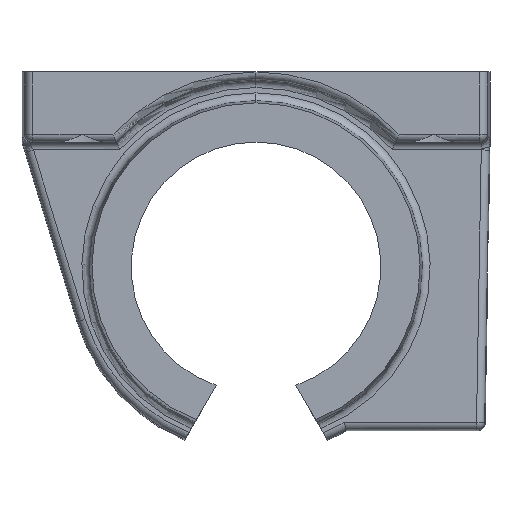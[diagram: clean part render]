
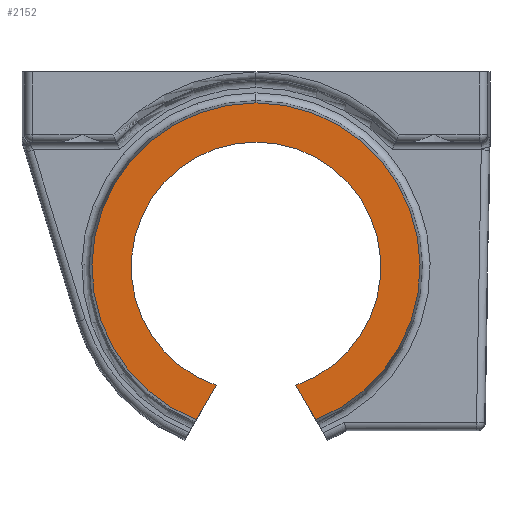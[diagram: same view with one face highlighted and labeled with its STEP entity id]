
A CAD part, front view. The second image highlights one B-rep face of the part: STEP entity #2152.
In plain terms, the highlighted planar face has unit normal (0, -1, 0).
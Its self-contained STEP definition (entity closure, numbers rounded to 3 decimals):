
#162 = ORIENTED_EDGE ( 'NONE', *, *, #2367, .F. ) ;
#289 = VECTOR ( 'NONE', #3725, 1000. ) ;
#396 = DIRECTION ( 'NONE',  ( 0., 1., 0. ) ) ;
#563 = CIRCLE ( 'NONE', #3665, 16. ) ;
#574 = CARTESIAN_POINT ( 'NONE',  ( 0., -14., -22. ) ) ;
#661 = EDGE_CURVE ( 'NONE', #2525, #3799, #4090, .T. ) ;
#722 = VERTEX_POINT ( 'NONE', #3090 ) ;
#758 = CARTESIAN_POINT ( 'NONE',  ( -2.742, -14., -23.583 ) ) ;
#770 = DIRECTION ( 'NONE',  ( 0., 0., -1. ) ) ;
#1057 = CIRCLE ( 'NONE', #2391, 21.028 ) ;
#1135 = DIRECTION ( 'NONE',  ( 0., -1., 0. ) ) ;
#1137 = CARTESIAN_POINT ( 'NONE',  ( 0., -14., -22. ) ) ;
#1179 = CARTESIAN_POINT ( 'NONE',  ( 0., -14., -22. ) ) ;
#1283 = VECTOR ( 'NONE', #3160, 1000. ) ;
#1444 = LINE ( 'NONE', #4073, #289 ) ;
#1560 = AXIS2_PLACEMENT_3D ( 'NONE', #1179, #1135, #770 ) ;
#1664 = EDGE_LOOP ( 'NONE', ( #162, #3961, #2474, #3352, #3644, #1739 ) ) ;
#1739 = ORIENTED_EDGE ( 'NONE', *, *, #661, .T. ) ;
#1747 = CARTESIAN_POINT ( 'NONE',  ( -7.652, -14., -41.586 ) ) ;
#1776 = LINE ( 'NONE', #758, #1283 ) ;
#1874 = DIRECTION ( 'NONE',  ( 0., 0., -1. ) ) ;
#1956 = DIRECTION ( 'NONE',  ( 0., 0., -1. ) ) ;
#2148 = VERTEX_POINT ( 'NONE', #2207 ) ;
#2152 = ADVANCED_FACE ( 'NONE', ( #2861 ), #4201, .T. ) ;
#2207 = CARTESIAN_POINT ( 'NONE',  ( 7.652, -14., -41.586 ) ) ;
#2367 = EDGE_CURVE ( 'NONE', #2148, #3799, #1776, .T. ) ;
#2390 = CARTESIAN_POINT ( 'NONE',  ( 0., -14., -22. ) ) ;
#2391 = AXIS2_PLACEMENT_3D ( 'NONE', #3045, #3655, #4355 ) ;
#2462 = AXIS2_PLACEMENT_3D ( 'NONE', #2390, #396, #2775 ) ;
#2464 = AXIS2_PLACEMENT_3D ( 'NONE', #574, #3933, #1956 ) ;
#2474 = ORIENTED_EDGE ( 'NONE', *, *, #4227, .F. ) ;
#2525 = VERTEX_POINT ( 'NONE', #3211 ) ;
#2526 = CARTESIAN_POINT ( 'NONE',  ( -5.1, -14., -37.165 ) ) ;
#2775 = DIRECTION ( 'NONE',  ( 0., 0., -1. ) ) ;
#2809 = VERTEX_POINT ( 'NONE', #1747 ) ;
#2861 = FACE_OUTER_BOUND ( 'NONE', #1664, .T. ) ;
#3045 = CARTESIAN_POINT ( 'NONE',  ( 0., -14., -22. ) ) ;
#3090 = CARTESIAN_POINT ( 'NONE',  ( 0., -14., -0.972 ) ) ;
#3106 = EDGE_CURVE ( 'NONE', #722, #2148, #4154, .T. ) ;
#3157 = EDGE_CURVE ( 'NONE', #3365, #2809, #1444, .T. ) ;
#3160 = DIRECTION ( 'NONE',  ( -0.5, 0., 0.866 ) ) ;
#3211 = CARTESIAN_POINT ( 'NONE',  ( 0., -14., -6. ) ) ;
#3311 = CARTESIAN_POINT ( 'NONE',  ( 5.1, -14., -37.165 ) ) ;
#3352 = ORIENTED_EDGE ( 'NONE', *, *, #3157, .F. ) ;
#3365 = VERTEX_POINT ( 'NONE', #2526 ) ;
#3378 = EDGE_CURVE ( 'NONE', #3365, #2525, #563, .T. ) ;
#3644 = ORIENTED_EDGE ( 'NONE', *, *, #3378, .T. ) ;
#3655 = DIRECTION ( 'NONE',  ( 0., 1., 0. ) ) ;
#3665 = AXIS2_PLACEMENT_3D ( 'NONE', #1137, #3857, #1874 ) ;
#3725 = DIRECTION ( 'NONE',  ( -0.5, 0., -0.866 ) ) ;
#3799 = VERTEX_POINT ( 'NONE', #3311 ) ;
#3857 = DIRECTION ( 'NONE',  ( 0., 1., 0. ) ) ;
#3933 = DIRECTION ( 'NONE',  ( 0., 1., 0. ) ) ;
#3961 = ORIENTED_EDGE ( 'NONE', *, *, #3106, .F. ) ;
#4073 = CARTESIAN_POINT ( 'NONE',  ( 2.742, -14., -23.583 ) ) ;
#4090 = CIRCLE ( 'NONE', #2464, 16. ) ;
#4154 = CIRCLE ( 'NONE', #2462, 21.028 ) ;
#4201 = PLANE ( 'NONE',  #1560 ) ;
#4227 = EDGE_CURVE ( 'NONE', #2809, #722, #1057, .T. ) ;
#4355 = DIRECTION ( 'NONE',  ( 0., 0., -1. ) ) ;
